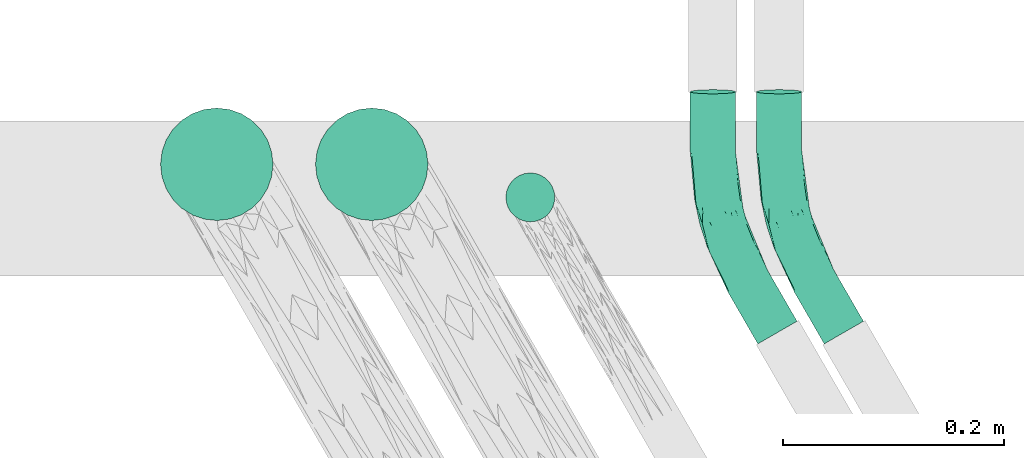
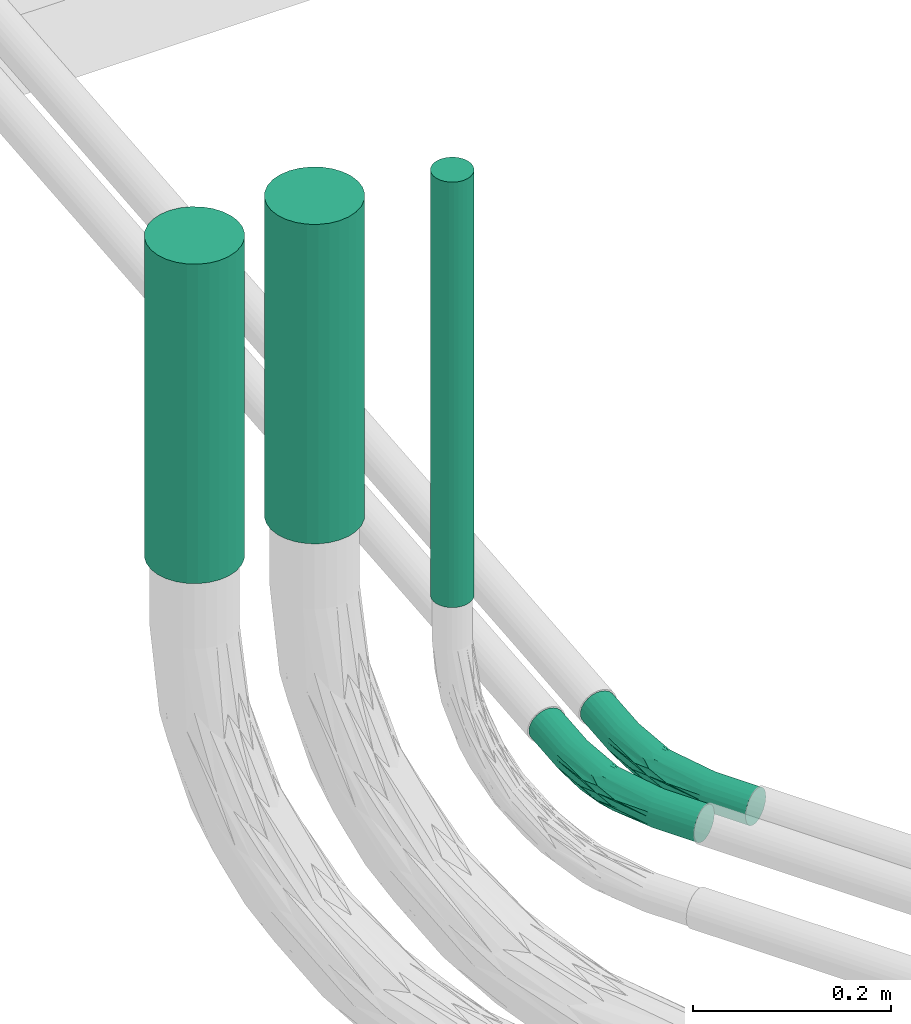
# One storey, part 14 of 18: 3 cable carrier segments, 2 cable carrier fittings.
"""IFC4 building model written with IfcOpenShell, lengths in centimetres."""

from ifc_helpers import new_model, entity, si_unit, converted_unit, derived_unit, direction, frame, origin, place, context, subcontext, project, spatial, arc, indexed_curve, outline, extrude, polygons, source, transform, mapped, material, type_object, type_shapes, element, save


model = new_model("IFC4")

# Units and contexts
model_context = context("Model", 3, precision=0.001, world=origin(), true_north=direction((6.123233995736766e-17, 1.0)))
body_context = subcontext(model_context, "Body", "Model", "MODEL_VIEW")
ifc_project = project(units=[si_unit("LENGTHUNIT", "METRE", prefix="CENTI"), si_unit("AREAUNIT", "SQUARE_METRE"), converted_unit("PLANEANGLEUNIT", "DEGREE", entity("IfcPlaneAngleMeasure", 0.017453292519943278), si_unit("PLANEANGLEUNIT", "RADIAN"), dimensions=[0, 0, 0, 0, 0, 0, 0]), si_unit("VOLUMEUNIT", "CUBIC_METRE"), derived_unit("THERMALTRANSMITTANCEUNIT", [(si_unit("MASSUNIT", "GRAM", prefix="KILO"), 1), (si_unit("THERMODYNAMICTEMPERATUREUNIT", "KELVIN"), -1), (si_unit("TIMEUNIT", "SECOND"), -3)])], contexts=[model_context])

# Site, building, storey
site_placement = place(None, frame((-0.003347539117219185, 0.0, 0.0)))
site = spatial("IfcSite", under=ifc_project, at=site_placement, Name="Default", CompositionType="ELEMENT")
building_placement = place(site_placement, origin())
building = spatial("IfcBuilding", under=site, at=building_placement, CompositionType="ELEMENT")
storey_placement = place(building_placement, frame((0.0, 0.0, -30.0)))
storey = spatial("IfcBuildingStorey", under=building, at=storey_placement, Name="Fondation B.O.", CompositionType="ELEMENT", Elevation=-30.0)

# Cable carrier segments
cable_carrier_segment_type = type_object("IfcCableCarrierSegmentType", Name="Conduit sans raccords:TPC", PredefinedType="CONDUITSEGMENT")
cable_carrier_segment_1_placement = place(storey_placement, origin())
element("IfcCableCarrierSegment", 1, at=cable_carrier_segment_1_placement, inside=storey, type_object=cable_carrier_segment_type, Name="Conduit sans raccords:TPC", ObjectType="Conduit sans raccords:TPC", PredefinedType="CONDUITSEGMENT", context=body_context, shape_type="SweptSolid", body=[
    extrude(outline(indexed_curve([(2.2100000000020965, 1.5678493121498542e-26), (1.5627059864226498, 1.5627059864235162), (-1.732587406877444e-12, 2.2099999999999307), (-1.5627059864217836, 1.562705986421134), (-2.2099999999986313, -1.567849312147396e-26), (-1.5627059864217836, -1.562705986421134), (-1.7325874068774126e-12, -2.2099999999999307), (1.5627059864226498, -1.5627059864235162)], segments=[arc(1, 2, 3), arc(3, 4, 5), arc(5, 6, 7), arc(7, 8, 1)], self_intersect=False)), frame((-5970.585049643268, -1890.779262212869, 17.556000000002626)), (0.0, 0.0, 1.0), 52.44399999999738),
])
cable_carrier_segment_2_placement = place(storey_placement, origin())
element("IfcCableCarrierSegment", 2, at=cable_carrier_segment_2_placement, inside=storey, type_object=cable_carrier_segment_type, Name="Conduit sans raccords:TPC", ObjectType="Conduit sans raccords:TPC", PredefinedType="CONDUITSEGMENT", context=body_context, shape_type="SweptSolid", body=[
    extrude(outline(indexed_curve([(5.079999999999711, 1.0325568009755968e-25), (3.5921024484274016, 3.5921024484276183), (-1.0325568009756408e-25, 5.079999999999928), (-3.5921024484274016, 3.5921024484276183), (-5.079999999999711, -1.0325568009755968e-25), (-3.5921024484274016, -3.5921024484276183), (1.0325568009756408e-25, -5.079999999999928), (3.5921024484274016, -3.5921024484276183)], segments=[arc(1, 2, 3), arc(3, 4, 5), arc(5, 6, 7), arc(7, 8, 1)], self_intersect=False)), frame((-5984.915642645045, -1887.792712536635, 30.621000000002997), z_axis=(0.0, 0.0, 1.0), x_axis=(-1.0, 0.0, 0.0)), (0.0, 0.0, 1.0), 39.378999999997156),
])
cable_carrier_segment_3_placement = place(storey_placement, origin())
element("IfcCableCarrierSegment", 3, at=cable_carrier_segment_3_placement, inside=storey, type_object=cable_carrier_segment_type, Name="Conduit sans raccords:TPC", ObjectType="Conduit sans raccords:TPC", PredefinedType="CONDUITSEGMENT", context=body_context, shape_type="SweptSolid", body=[
    extrude(outline(indexed_curve([(5.079999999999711, 1.0325568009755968e-25), (3.5921024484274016, 3.5921024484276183), (-1.0325568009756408e-25, 5.079999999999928), (-3.5921024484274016, 3.5921024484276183), (-5.079999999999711, -1.0325568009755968e-25), (-3.5921024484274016, -3.5921024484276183), (1.0325568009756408e-25, -5.079999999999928), (3.5921024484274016, -3.5921024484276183)], segments=[arc(1, 2, 3), arc(3, 4, 5), arc(5, 6, 7), arc(7, 8, 1)], self_intersect=False)), frame((-5998.9156426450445, -1887.792712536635, 30.621000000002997), z_axis=(0.0, 0.0, 1.0), x_axis=(-1.0, 0.0, 0.0)), (0.0, 0.0, 1.0), 39.378999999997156),
])

# Cable carrier fittings
ifc_material = material(Name="<Unnamed>")
cable_carrier_fitting_type = type_object("IfcCableCarrierFittingType", Name="Courbure de conduit en plastique rigide - Sans raccords:Raccord TPC BT", PredefinedType="NOTDEFINED", material=ifc_material)
shared_shape = source(origin(), body_context, "Body", "Tessellation", [
    polygons([(-11.686082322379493, -2.0500000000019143, -1.936944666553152e-13), (-11.6860823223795, -1.9801479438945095, 0.5305790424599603), (-11.68608232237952, -1.7753520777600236, 1.0249999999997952), (-11.686082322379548, -1.4495689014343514, 1.4495689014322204), (-11.686082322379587, -1.0250000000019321, 1.7753520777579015), (-11.686082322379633, -0.5305790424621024, 1.9801479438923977), (-11.686082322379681, -1.936151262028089e-12, 2.0499999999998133), (-11.68608232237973, 0.5305790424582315, 1.980147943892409), (-11.686082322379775, 1.024999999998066, 1.7753520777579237), (-11.686082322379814, 1.4495689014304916, 1.4495689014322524), (-11.686082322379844, 1.7753520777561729, 1.0249999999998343), (-11.686082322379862, 1.9801479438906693, 0.5305790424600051), (-11.68608232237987, 2.049999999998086, -1.7382326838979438e-13), (-11.686082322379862, 1.98014794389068, -0.5305790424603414), (-11.686082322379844, 1.7753520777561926, -1.0250000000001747), (-11.686082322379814, 1.4495689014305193, -1.449568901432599), (-11.686082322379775, 1.0249999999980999, -1.7753520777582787), (-11.68608232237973, 0.5305790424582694, -1.980147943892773), (-11.686082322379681, -1.898731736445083e-12, -2.0500000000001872), (-11.686082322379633, -0.5305790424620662, -1.9801479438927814), (-11.686082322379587, -1.0250000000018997, -1.7753520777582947), (-11.686082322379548, -1.4495689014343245, -1.4495689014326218), (-11.68608232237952, -1.7753520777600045, -1.0250000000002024), (-11.6860823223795, -1.9801479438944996, -0.5305790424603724), (-6.295082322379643, -2.05000000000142, -1.936944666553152e-13), (-6.295082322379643, -1.9801479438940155, 0.5305790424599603), (-6.295082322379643, -1.77535207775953, 1.0249999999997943), (-6.295082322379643, -1.4495689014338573, 1.4495689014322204), (-6.295082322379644, -1.0250000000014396, 1.7753520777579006), (-6.295082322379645, -0.5305790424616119, 1.9801479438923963), (-6.2950823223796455, -1.4457346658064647e-12, 2.0499999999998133), (-6.295082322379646, 0.5305790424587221, 1.98014794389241), (-6.295082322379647, 1.0249999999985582, 1.7753520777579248), (-6.295082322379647, 1.4495689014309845, 1.4495689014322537), (-6.295082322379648, 1.7753520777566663, 1.0249999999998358), (-6.295082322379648, 1.9801479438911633, 0.5305790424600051), (-6.295082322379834, 2.04999999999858, -1.610779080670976e-13), (-6.295082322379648, 1.980147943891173, -0.530579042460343), (-6.295082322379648, 1.7753520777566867, -1.0250000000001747), (-6.295082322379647, 1.4495689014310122, -1.4495689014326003), (-6.295082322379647, 1.0249999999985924, -1.7753520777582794), (-6.295082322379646, 0.5305790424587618, -1.9801479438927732), (-6.2950823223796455, -1.4046736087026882e-12, -2.0500000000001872), (-6.295082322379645, -0.5305790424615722, -1.9801479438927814), (-6.295082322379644, -1.0250000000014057, -1.7753520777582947), (-6.295082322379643, -1.4495689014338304, -1.4495689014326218), (-6.295082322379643, -1.7753520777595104, -1.0250000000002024), (-6.295082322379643, -1.9801479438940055, -0.5305790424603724), (4.3917110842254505, 4.954133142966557, -1.7382326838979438e-13), (1.0203122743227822, 3.3577228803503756, -1.7382326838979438e-13), (-2.5794014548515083, 2.3795016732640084, -1.7382326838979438e-13), (-1.8579100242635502, -1.6565174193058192, -1.936944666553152e-13), (2.4407772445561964, -0.48835034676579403, -1.936944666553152e-13), (6.466816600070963, 1.4180424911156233, -1.936944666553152e-13), (6.43146284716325, 1.4782871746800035, 0.530579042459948), (6.327810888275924, 1.6549156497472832, 1.024999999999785), (6.162924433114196, 1.9358909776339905, 1.44956890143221), (5.948040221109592, 2.3020651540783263, 1.7753520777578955), (5.697802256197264, 2.728484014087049, 1.9801479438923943), (5.429263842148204, 3.186087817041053, 2.049999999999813), (5.160725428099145, 3.6436916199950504, 1.980147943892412), (4.910487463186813, 4.070110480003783, 1.7753520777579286), (4.695603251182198, 4.436284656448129, 1.449568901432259), (4.530716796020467, 4.717259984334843, 1.0249999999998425), (4.427064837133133, 4.89388845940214, 0.5305790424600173), (0.29805764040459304, -1.096809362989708, 0.5432974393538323), (0.20755090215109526, -0.7637575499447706, 1.241165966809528), (-0.012570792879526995, 0.04625871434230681, 1.8907568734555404), (-0.2883802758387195, 1.0611980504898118, 2.0334997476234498), (-0.5459423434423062, 2.008989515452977, 1.6311300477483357), (-0.7162133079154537, 2.635562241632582, 0.7915094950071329), (-0.7482255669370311, 2.7533627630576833, 0.3871666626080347), (-0.9140756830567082, -0.6532822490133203, 1.6220669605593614), (-1.0060668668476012, 0.32997206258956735, 2.03153292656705), (-1.1145737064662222, 1.3856818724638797, 1.8966199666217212), (-1.1740681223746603, 2.239633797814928, 1.2534875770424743), (-1.6390530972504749, -1.4002118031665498, 0.9087662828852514), (2.7251484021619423, -0.1818946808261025, 0.8536149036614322), (4.427064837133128, 4.893888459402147, -0.5305790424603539), (4.530716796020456, 4.71725998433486, -1.025000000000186), (4.695603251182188, 4.43628465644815, -1.4495689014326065), (4.910487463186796, 4.070110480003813, -1.7753520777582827), (5.160725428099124, 3.643691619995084, -1.9801479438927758), (5.429263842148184, 3.186087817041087, -2.0500000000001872), (5.697802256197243, 2.7284840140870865, -1.9801479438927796), (5.948040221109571, 2.30206515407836, -1.775352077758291), (6.162924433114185, 1.9358909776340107, -1.4495689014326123), (6.327810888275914, 1.6549156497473, -1.0250000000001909), (6.431462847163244, 1.4782871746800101, -0.5305790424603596), (0.2980576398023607, -1.096809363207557, -0.5432974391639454), (0.2075509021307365, -0.7637575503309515, -1.2411659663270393), (-0.012570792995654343, 0.04625871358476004, -1.8907568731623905), (-0.2883802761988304, 1.0611980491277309, -2.0334997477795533), (-0.5459423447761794, 2.008989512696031, -1.631130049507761), (-0.7162133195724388, 2.6355622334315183, -0.79150950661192), (-0.7482256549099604, 2.753362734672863, -0.38716668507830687), (1.1189961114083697, -0.10079555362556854, -1.622066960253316), (0.7006870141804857, 0.793781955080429, -2.0315329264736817), (0.2599506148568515, 1.7592084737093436, -1.8966199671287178), (-0.12094269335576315, 2.52582033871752, -1.253487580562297), (2.1222994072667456, -0.37806530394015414, -0.9087662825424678), (-2.2582734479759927, -1.5361381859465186, -0.8536149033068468), (11.116344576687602, 4.146553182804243, -1.9278408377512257e-13), (11.080990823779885, 4.206797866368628, -0.5305790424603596), (10.977338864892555, 4.383426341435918, -1.025000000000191), (10.812452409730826, 4.664401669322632, -1.4495689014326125), (10.597568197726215, 5.030575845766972, -1.7753520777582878), (10.347330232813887, 5.456994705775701, -1.9801479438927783), (10.078791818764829, 5.914598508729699, -2.0500000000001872), (9.810253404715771, 6.372202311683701, -1.9801479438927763), (9.560015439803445, 6.798621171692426, -1.7753520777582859), (9.345131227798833, 7.164795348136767, -1.4495689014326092), (9.180244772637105, 7.44577067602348, -1.0250000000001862), (9.076592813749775, 7.622399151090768, -0.5305790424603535), (9.041239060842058, 7.682643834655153, -1.6289867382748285e-13), (9.076592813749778, 7.622399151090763, 0.5305790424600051), (9.18024477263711, 7.44577067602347, 1.0249999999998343), (9.345131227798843, 7.164795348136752, 1.4495689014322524), (9.560015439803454, 6.7986211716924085, 1.7753520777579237), (9.810253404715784, 6.372202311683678, 1.9801479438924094), (10.078791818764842, 5.914598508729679, 2.0499999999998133), (10.347330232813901, 5.456994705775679, 1.9801479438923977), (10.597568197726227, 5.030575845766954, 1.7753520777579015), (10.812452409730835, 4.664401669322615, 1.4495689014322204), (10.977338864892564, 4.383426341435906, 1.0249999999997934), (11.080990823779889, 4.206797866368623, 0.5305790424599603)], [[[19, 20, 21, 22, 23, 24, 1, 2, 3, 4, 5, 6, 7, 8, 9, 10, 11, 12, 13, 14, 15, 16, 17, 18]], [[2, 1, 25, 26]], [[27, 3, 2, 26]], [[5, 4, 28, 29]], [[27, 28, 4, 3]], [[6, 5, 29, 30]], [[30, 31, 7, 6]], [[9, 8, 32, 33]], [[34, 10, 9, 33]], [[12, 11, 35, 36]], [[34, 35, 11, 10]], [[13, 12, 36, 37]], [[32, 8, 7, 31]], [[14, 13, 37, 38]], [[39, 15, 14, 38]], [[17, 16, 40, 41]], [[39, 40, 16, 15]], [[18, 17, 41, 42]], [[42, 43, 19, 18]], [[21, 20, 44, 45]], [[46, 22, 21, 45]], [[24, 23, 47, 48]], [[46, 47, 23, 22]], [[1, 24, 48, 25]], [[44, 20, 19, 43]], [[66, 77, 26]], [[52, 26, 25]], [[56, 57, 67]], [[77, 67, 27]], [[68, 29, 73]], [[67, 28, 27]], [[31, 30, 74]], [[30, 29, 68]], [[31, 74, 69]], [[58, 59, 68]], [[29, 28, 73]], [[33, 32, 75]], [[34, 33, 70]], [[35, 34, 76]], [[35, 76, 71]], [[33, 75, 70]], [[62, 63, 70]], [[36, 72, 51]], [[71, 72, 36]], [[67, 77, 78]], [[51, 37, 36]], [[36, 35, 71]], [[65, 72, 71]], [[32, 31, 69]], [[64, 65, 71]], [[66, 52, 53]], [[60, 61, 69]], [[74, 60, 69]], [[58, 73, 57]], [[26, 77, 27]], [[74, 59, 60]], [[26, 52, 66]], [[55, 78, 66]], [[68, 73, 58]], [[67, 78, 56]], [[53, 54, 55]], [[78, 77, 66]], [[30, 68, 74]], [[51, 72, 50]], [[56, 78, 55]], [[49, 50, 65]], [[57, 73, 67]], [[50, 72, 65]], [[34, 70, 76]], [[64, 71, 76]], [[32, 69, 75]], [[64, 76, 63]], [[61, 75, 69]], [[75, 61, 62]], [[75, 62, 70]], [[59, 74, 68]], [[63, 76, 70]], [[55, 66, 53]], [[28, 67, 73]], [[42, 41, 99]], [[89, 101, 88]], [[40, 100, 94]], [[40, 94, 41]], [[37, 51, 38]], [[86, 87, 97]], [[95, 39, 38]], [[45, 92, 97]], [[40, 39, 100]], [[41, 94, 99]], [[81, 94, 100]], [[43, 42, 93]], [[48, 90, 52]], [[52, 25, 48]], [[89, 53, 90]], [[92, 45, 44]], [[48, 102, 90]], [[47, 46, 91]], [[46, 45, 97]], [[43, 98, 44]], [[91, 102, 47]], [[101, 91, 88]], [[50, 96, 51]], [[102, 101, 90]], [[50, 49, 79]], [[91, 101, 102]], [[43, 93, 98]], [[80, 95, 79]], [[94, 81, 82]], [[44, 98, 92]], [[99, 94, 82]], [[46, 97, 91]], [[85, 92, 98]], [[95, 80, 100]], [[83, 93, 99]], [[84, 93, 83]], [[92, 85, 86]], [[38, 96, 95]], [[88, 91, 87]], [[97, 92, 86]], [[79, 96, 50]], [[98, 93, 84]], [[52, 90, 53]], [[51, 96, 38]], [[54, 53, 89]], [[39, 95, 100]], [[82, 83, 99]], [[90, 101, 89]], [[80, 81, 100]], [[47, 102, 48]], [[87, 91, 97]], [[95, 96, 79]], [[42, 99, 93]], [[84, 85, 98]], [[110, 111, 112, 113, 114, 115, 116, 117, 118, 119, 120, 121, 122, 123, 124, 125, 126, 103, 104, 105, 106, 107, 108, 109]], [[55, 54, 103, 126]], [[125, 56, 55, 126]], [[58, 57, 124, 123]], [[125, 124, 57, 56]], [[59, 58, 123, 122]], [[122, 121, 60, 59]], [[62, 61, 120, 119]], [[118, 63, 62, 119]], [[65, 64, 117, 116]], [[118, 117, 64, 63]], [[49, 65, 116, 115]], [[120, 61, 60, 121]], [[49, 115, 114, 79]], [[113, 80, 79, 114]], [[111, 110, 83, 82]], [[112, 111, 82, 81]], [[81, 80, 113, 112]], [[110, 109, 84, 83]], [[86, 85, 108, 107]], [[106, 87, 86, 107]], [[89, 88, 105, 104]], [[106, 105, 88, 87]], [[54, 89, 104, 103]], [[108, 85, 84, 109]]], closed=True),
])
type_shapes(cable_carrier_fitting_type, [shared_shape])
for number, where, z_axis, x_axis in (
    (4, (-5948.099445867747, -1892.875884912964, -11.0), (-0.15508218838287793, -0.08953674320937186, 0.9838357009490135), (0.0, -0.995884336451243, -0.09063326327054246)),
    (5, (-5954.099445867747, -1892.875884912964, -11.0), (-0.15508218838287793, -0.08953674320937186, 0.9838357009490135), (0.0, -0.995884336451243, -0.09063326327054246)),
):
    element("IfcCableCarrierFitting", number, at=place(storey_placement, frame(where, z_axis=z_axis, x_axis=x_axis)), inside=storey, type_object=cable_carrier_fitting_type, material=ifc_material, Name="Courbure de conduit en plastique rigide - Sans raccords:Raccord TPC BT", ObjectType="Courbure de conduit en plastique rigide - Sans raccords:Raccord TPC BT", PredefinedType="NOTDEFINED", context=body_context, shape_type="MappedRepresentation", body=[
        mapped(shared_shape, transform((0.0, 0.0, 0.0), scale=1.0)),
    ])

save(model, "model.ifc")
